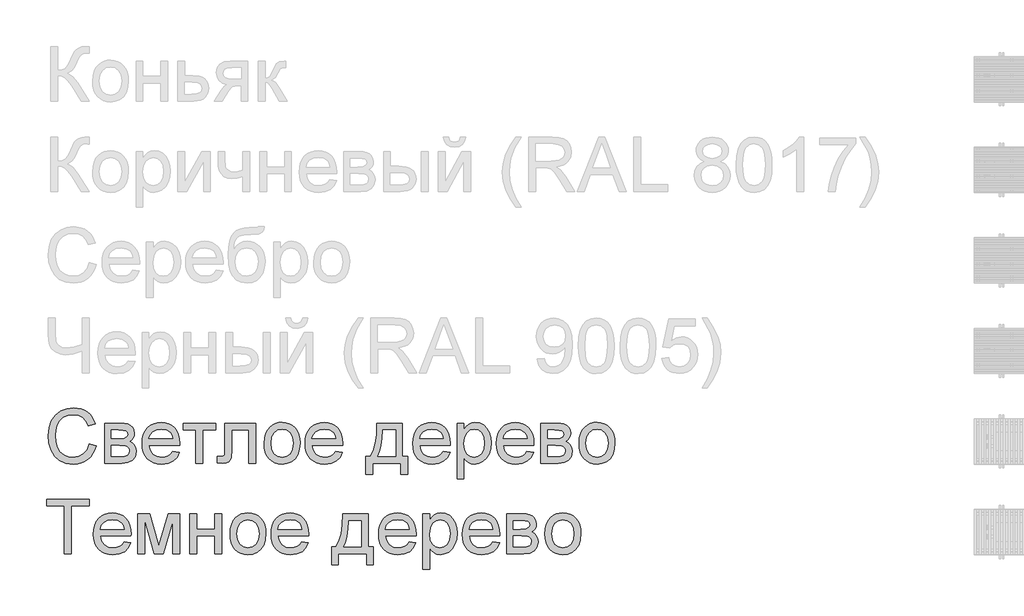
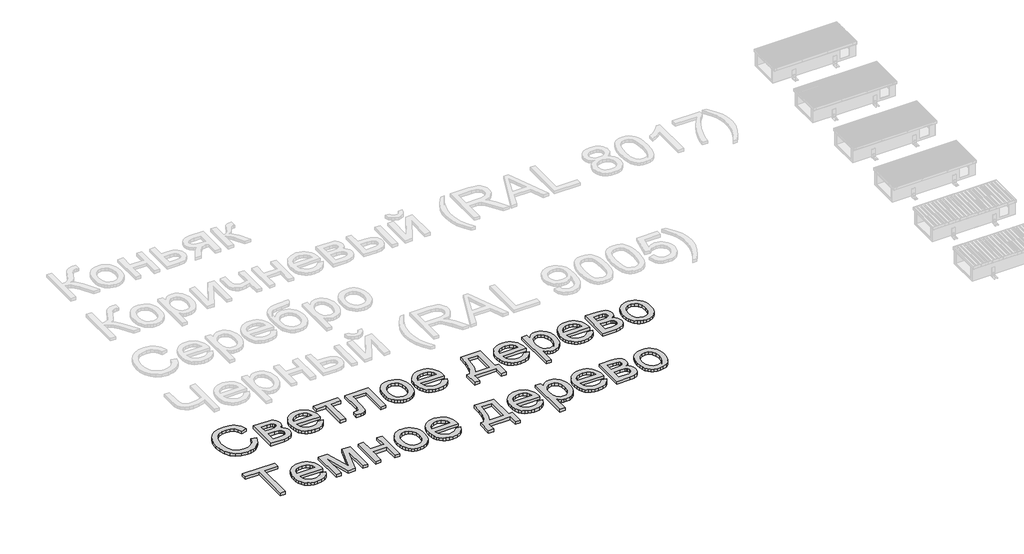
# One storey, part 2 of 12: 2 proxies.
"""IFC4 building model written with IfcOpenShell, lengths in millimetres."""

import ifcopenshell
import ifcopenshell.guid

model = None  # the IFC model being written
_history = None  # IfcOwnerHistory: only IFC2X3 demands one
_inside = {}  # id of a spatial element -> (the spatial element, [elements in it])
_under = {}  # id of a project, library or spatial element -> (it, [spatial elements below it])
_declared = {}  # id of a project -> (the project, [libraries it declares])
_typed = {}  # id of a type object -> (the type object, [elements of that type])
_made_of = {}  # id of a material, layer set ... -> (it, [elements and type objects made of it])


def new_model(schema):
    """Start an empty IFC model of exactly this schema.

    Asked for "IFC4X3", IfcOpenShell would pick the latest addendum, in which some entities
    have other attributes; the version numbers below select the first issue.
    IFC2X3 requires an IfcOwnerHistory on every rooted entity: one is made here for all.
    """
    global model, _history
    if schema == "IFC4X3":
        model = ifcopenshell.file(schema_version=(4, 3, 0, 0))
    else:
        model = ifcopenshell.file(schema=schema)
    _inside.clear()
    _under.clear()
    _declared.clear()
    _typed.clear()
    _made_of.clear()
    _history = None
    if model.schema == "IFC2X3":
        org = make("IfcOrganization", Name="unknown")
        user = make(
            "IfcPersonAndOrganization",
            ThePerson=make("IfcPerson", FamilyName="unknown"),
            TheOrganization=org,
        )
        app = make(
            "IfcApplication",
            ApplicationDeveloper=org,
            Version="unknown",
            ApplicationFullName="unknown",
            ApplicationIdentifier="unknown",
        )
        _history = make(
            "IfcOwnerHistory",
            OwningUser=user,
            OwningApplication=app,
            ChangeAction="ADDED",
            CreationDate=0,
        )
    return model


def make(cls, **values):
    """One entity of the class cls with the attributes given. An attribute that is None is left unset."""
    return model.create_entity(
        cls, **{name: value for name, value in values.items() if value is not None}
    )


def rooted(cls, **values):
    """An entity with a GlobalId (a new one), such as an element, a storey or a relation."""
    return make(cls, GlobalId=ifcopenshell.guid.new(), OwnerHistory=_history, **values)


def si_unit(unit_type, name, prefix=None):
    """IfcSIUnit, for example si_unit("LENGTHUNIT", "METRE", prefix="MILLI")."""
    return make("IfcSIUnit", UnitType=unit_type, Prefix=prefix, Name=name)


def assignment(units):
    """IfcUnitAssignment: the units of a project."""
    return None if units is None else make("IfcUnitAssignment", Units=units)


def point(xyz):
    """IfcCartesianPoint."""
    return None if xyz is None else make("IfcCartesianPoint", Coordinates=xyz)


def direction(xyz):
    """IfcDirection."""
    return None if xyz is None else make("IfcDirection", DirectionRatios=xyz)


def frame(location, z_axis=None, x_axis=None):
    """IfcAxis2Placement3D, a coordinate frame: its origin and axes. An axis left out is left unset."""
    return make(
        "IfcAxis2Placement3D",
        Location=point(location),
        Axis=direction(z_axis),
        RefDirection=direction(x_axis),
    )


def origin():
    """The frame at (0, 0, 0) with its axes left unset."""
    return frame((0.0, 0.0, 0.0))


def origin_with_axes():
    """The frame at (0, 0, 0) with the z axis (0, 0, 1) and the x axis (1, 0, 0) written out."""
    return frame((0.0, 0.0, 0.0), z_axis=(0.0, 0.0, 1.0), x_axis=(1.0, 0.0, 0.0))


def place(relative_to, where):
    """IfcLocalPlacement: puts the frame where relative to a parent placement (None: the world)."""
    return make(
        "IfcLocalPlacement", PlacementRelTo=relative_to, RelativePlacement=where
    )


def context(
    kind, dimensions, precision=None, world=None, true_north=None, identifier=None
):
    """IfcGeometricRepresentationContext, for example the 3D "Model" context."""
    return make(
        "IfcGeometricRepresentationContext",
        ContextIdentifier=identifier,
        ContextType=kind,
        CoordinateSpaceDimension=dimensions,
        Precision=precision,
        WorldCoordinateSystem=world,
        TrueNorth=true_north,
    )


def project(units=None, contexts=None):
    """IfcProject with its units and contexts."""
    return rooted(
        "IfcProject",
        Name="project",
        RepresentationContexts=contexts,
        UnitsInContext=assignment(units),
    )


def spatial(cls, under=None, at=None, **own):
    """A site, building, storey or space (cls), placed at a placement, below another one or the project."""
    s = rooted(cls, ObjectPlacement=at, **own)
    if under is not None:
        _under.setdefault(under.id(), (under, []))[1].append(s)
    return s


def polyline(points):
    """IfcPolyline through the points."""
    return make("IfcPolyline", Points=[point(p) for p in points])


def outline(outer, holes=None, kind="AREA"):
    """IfcArbitraryClosedProfileDef: a profile drawn as a closed curve; with holes, ...WithVoids."""
    if holes is None:
        return make("IfcArbitraryClosedProfileDef", ProfileType=kind, OuterCurve=outer)
    return make(
        "IfcArbitraryProfileDefWithVoids",
        ProfileType=kind,
        OuterCurve=outer,
        InnerCurves=holes,
    )


def extrude(swept, where, along, depth):
    """IfcExtrudedAreaSolid: the profile swept, set in the frame where, extruded along a direction by depth."""
    return make(
        "IfcExtrudedAreaSolid",
        SweptArea=swept,
        Position=where,
        ExtrudedDirection=direction(along),
        Depth=depth,
    )


def shape(context_of_items, identifier, shape_type, items):
    """IfcShapeRepresentation: the items that make up one representation, for example the "Body"."""
    return make(
        "IfcShapeRepresentation",
        ContextOfItems=context_of_items,
        RepresentationIdentifier=identifier,
        RepresentationType=shape_type,
        Items=items,
    )


def made_of(thing, what):
    """Note that an element or type object is made of a material, layer set ...; save() writes the relation."""
    if what is not None:
        _made_of.setdefault(what.id(), (what, []))[1].append(thing)
    return thing


def element(
    cls,
    number,
    at=None,
    inside=None,
    cuts=None,
    type_object=None,
    material=None,
    context=None,
    identifier="Body",
    shape_type=None,
    held_by="IfcProductDefinitionShape",
    body=None,
    shapes=None,
    **own,
):
    """One element of the class cls, such as IfcWall. Its Tag is "e" and its number.

    at: its placement. inside: the storey or other place that contains it. cuts: it is an
    opening in that element (IfcRelVoidsElement). A single representation is given by context,
    identifier, shape_type and body (its items); several are given by shapes. held_by: the class
    of the entity that holds the representations. save() writes the other relations.
    """
    e = rooted(cls, Tag="e%d" % number, ObjectPlacement=at, **own)
    if body is not None:
        shapes = [shape(context, identifier, shape_type, body)]
    if shapes is not None:
        e.Representation = make(held_by, Representations=shapes)
    if inside is not None:
        _inside.setdefault(inside.id(), (inside, []))[1].append(e)
    if cuts is not None:
        rooted(
            "IfcRelVoidsElement", RelatingBuildingElement=cuts, RelatedOpeningElement=e
        )
    if type_object is not None:
        _typed.setdefault(type_object.id(), (type_object, []))[1].append(e)
    return made_of(e, material)


def aggregate(whole, parts):
    """IfcRelAggregates: a whole, such as a stair, and the parts it consists of."""
    return rooted("IfcRelAggregates", RelatingObject=whole, RelatedObjects=parts)


def save(model, path):
    """Write the relations noted so far, then the file.

    IfcRelAggregates (storeys below a building ...), IfcRelContainedInSpatialStructure (elements
    in a storey), IfcRelDefinesByType, IfcRelAssociatesMaterial and IfcRelDeclares: one each for
    every whole, place, type object, material and project.
    """
    for whole, parts in _under.values():
        aggregate(whole, parts)
    for where, things in _inside.values():
        rooted(
            "IfcRelContainedInSpatialStructure",
            RelatedElements=things,
            RelatingStructure=where,
        )
    for kind, things in _typed.values():
        rooted("IfcRelDefinesByType", RelatedObjects=things, RelatingType=kind)
    for what, things in _made_of.values():
        rooted("IfcRelAssociatesMaterial", RelatedObjects=things, RelatingMaterial=what)
    for by, libraries in _declared.values():
        rooted("IfcRelDeclares", RelatingContext=by, RelatedDefinitions=libraries)
    model.write(path)


model = new_model("IFC4")

# Units and contexts
model_context = context("Model", 3, world=origin())
ifc_project = project(units=[si_unit("LENGTHUNIT", "METRE", prefix="MILLI")], contexts=[model_context])

# Site, building, storey
site = spatial("IfcSite", under=ifc_project)
building = spatial("IfcBuilding", under=site)
storey = spatial("IfcBuildingStorey", under=building, Name="Уровень 1", Elevation=0.0)

# Proxies
placement = place(None, origin())
element("IfcBuildingElementProxy", 1, Name="300", ObjectType="300", at=placement, inside=storey, context=model_context, shape_type="SweptSolid", body=[
    extrude(outline(polyline([(7314.0636537, -16307.9855094), (7351.73477, -16317.6975941), (7344.2805611, -16341.1247794), (7334.3523457, -16361.5951131), (7321.950124, -16379.1085954), (7307.0738958, -16393.6652261), (7290.0593535, -16405.1086554), (7271.2421895, -16413.2825335), (7250.6224036, -16418.1868603), (7228.199996, -16419.8216359), (7184.5048121, -16414.8736231), (7149.8043429, -16400.0295846), (7123.2064746, -16375.8045552), (7103.8190935, -16342.7135697), (7091.9824903, -16303.8100487), (7088.0369559, -16262.1474128), (7092.4975251, -16218.2039085), (7105.8792326, -16180.2568807), (7127.4831028, -16149.5111429), (7156.6101598, -16127.1715088), (7191.1542791, -16113.569072), (7229.0093364, -16109.0349264), (7270.3132874, -16114.9026442), (7288.2820236, -16122.2372915), (7304.4619336, -16132.5057977), (7318.586303, -16145.4368498), (7330.3884172, -16160.7591349), (7347.0258805, -16198.577404), (7309.3547642, -16207.5537247), (7296.2949533, -16180.0821367), (7278.4526766, -16161.2373815), (7255.6072047, -16150.3388774), (7227.5378084, -16146.7060427), (7195.182587, -16150.7343505), (7168.6031128, -16162.8192741), (7148.4339824, -16181.6916204), (7135.3097923, -16206.0821967), (7128.1085022, -16233.6549523), (7125.7080722, -16262.0738364), (7128.5499606, -16296.8754731), (7137.0756258, -16326.9682203), (7151.6069646, -16351.2024468), (7172.4658738, -16368.4285212), (7197.4726524, -16378.72002), (7224.4475997, -16382.1505196), (7255.8923132, -16377.4784183), (7282.0947083, -16363.4621143), (7301.8775626, -16340.2487604), (7314.0636537, -16307.9855094)])), origin_with_axes(), (0.0, 0.0, 1.0), 20.0),
    extrude(outline(polyline([(7398.8236654, -16193.7949381), (7481.8178435, -16193.7949381), (7508.4984852, -16195.0549339), (7527.3248463, -16198.8349214), (7541.1756034, -16205.9718321), (7552.9294332, -16217.3025976), (7560.9584577, -16232.0638626), (7563.6347992, -16249.4922722), (7562.0161185, -16263.5361673), (7557.1600761, -16275.648682), (7549.0482781, -16285.8849985), (7537.6623304, -16294.3002992), (7551.605058, -16302.1269886), (7562.9726116, -16314.7177499), (7570.5325867, -16331.0793016), (7573.0525783, -16350.2183624), (7566.6698257, -16378.9315522), (7551.4946934, -16399.1466678), (7527.4719991, -16411.1212267), (7494.5465605, -16415.1127464), (7398.8236654, -16415.1127464), (7398.8236654, -16193.7949381)]), holes=[polyline([(7436.4947817, -16278.5549498), (7473.7244396, -16278.5549498), (7504.4425862, -16276.6419634), (7519.3785952, -16268.9900179), (7524.317411, -16262.6624476), (7525.9636829, -16255.1576549), (7523.0758093, -16243.9188599), (7514.4121883, -16236.6899787), (7498.7588094, -16232.7720355), (7474.901662, -16231.4660544), (7436.4947817, -16231.4660544), (7436.4947817, -16278.5549498)]), polyline([(7436.4947817, -16377.4416301), (7482.7007603, -16377.4416301), (7507.8822829, -16375.7401758), (7523.6828146, -16370.6358132), (7532.1624946, -16361.3559898), (7535.381462, -16347.1281537), (7533.7719783, -16337.7011775), (7528.9435271, -16328.9915713), (7521.5307049, -16322.1765573), (7512.1681081, -16318.433358), (7479.0219403, -16316.2260661), (7436.4947817, -16316.2260661), (7436.4947817, -16377.4416301)])]), origin_with_axes(), (0.0, 0.0, 1.0), 20.0),
    extrude(outline(polyline([(7775.0933701, -16349.1882928), (7812.0287224, -16353.8971824), (7798.7205912, -16381.7274553), (7777.484603, -16402.5311821), (7748.7990045, -16415.4990225), (7713.1420421, -16419.8216359), (7689.7677398, -16417.9569341), (7668.9410204, -16412.3628285), (7650.6618837, -16403.0393192), (7634.9303299, -16389.9864061), (7622.2797878, -16373.5673728), (7613.2436863, -16354.1455027), (7607.8220254, -16331.7207959), (7606.0148051, -16306.2932522), (7607.8404195, -16280.0034851), (7613.3172627, -16256.831518), (7622.4453347, -16236.7773507), (7635.2246355, -16219.8409833), (7650.9148026, -16206.3856994), (7668.7754735, -16196.7747822), (7688.8066481, -16191.008232), (7711.0083265, -16189.0860485), (7732.4949343, -16191.0036334), (7751.9260014, -16196.7563881), (7769.3015279, -16206.3443126), (7784.6215137, -16219.7674069), (7797.1272023, -16236.6669861), (7806.059837, -16256.6843652), (7811.4194178, -16279.8195441), (7813.2059448, -16306.072523), (7812.9852156, -16316.2260661), (7643.6859214, -16316.2260661), (7650.2066298, -16344.424221), (7665.3541709, -16365.1543714), (7687.2155585, -16377.9014826), (7713.8778061, -16382.1505196), (7733.9273748, -16380.1823509), (7750.8131584, -16374.2778449), (7764.5351568, -16364.0691195), (7775.0933701, -16349.1882928)]), holes=[polyline([(7643.6859214, -16278.5549498), (7775.5348285, -16278.5549498), (7770.4396628, -16258.6525338), (7760.4516667, -16244.4155006), (7738.4891115, -16231.1717488), (7710.8611737, -16226.7571648), (7685.468119, -16230.279635), (7664.4712541, -16240.8470453), (7649.875536, -16257.3189616), (7643.6859214, -16278.5549498)])]), origin_with_axes(), (0.0, 0.0, 1.0), 20.0),
    extrude(outline(polyline([(7832.0415029, -16193.7949381), (8010.9793054, -16193.7949381), (8010.9793054, -16231.4660544), (7940.3459623, -16231.4660544), (7940.3459623, -16415.1127464), (7902.674846, -16415.1127464), (7902.674846, -16231.4660544), (7832.0415029, -16231.4660544), (7832.0415029, -16193.7949381)])), origin_with_axes(), (0.0, 0.0, 1.0), 20.0),
    extrude(outline(polyline([(8062.7770903, -16193.7949381), (8232.2971137, -16193.7949381), (8232.2971137, -16414.8920172), (8194.6259974, -16414.8920172), (8194.6259974, -16231.4660544), (8100.4482066, -16231.4660544), (8100.4482066, -16337.048187), (8097.9098208, -16385.7557632), (8093.154946, -16396.783026), (8083.9670932, -16406.3203667), (8070.0243656, -16412.9146515), (8051.0048665, -16415.1127464), (8020.3970845, -16413.19976), (8020.3970845, -16377.4416301), (8037.2460798, -16377.4416301), (8054.2790162, -16375.1239735), (8061.0848331, -16367.7663336), (8062.7770903, -16334.9144714), (8062.7770903, -16193.7949381)])), origin_with_axes(), (0.0, 0.0, 1.0), 20.0),
    extrude(outline(polyline([(8279.3860091, -16304.4538422), (8281.4231556, -16275.7912363), (8287.5345952, -16251.0925588), (8297.720328, -16230.3578099), (8311.9803538, -16213.5869894), (8326.3369487, -16202.8678278), (8342.1834656, -16195.2112838), (8359.5199047, -16190.6173573), (8378.3462658, -16189.0860485), (8399.1292992, -16190.9507504), (8417.9211714, -16196.544856), (8434.7218823, -16205.8683653), (8449.5314318, -16218.9212784), (8461.6186546, -16235.2621367), (8470.2523852, -16254.449482), (8475.4326235, -16276.4833143), (8477.1593697, -16301.3636335), (8474.1059491, -16339.4210259), (8464.9456874, -16368.391733), (8449.9452991, -16390.0875737), (8429.3714985, -16406.3203667), (8404.934937, -16416.4463186), (8378.3462658, -16419.8216359), (8357.2597296, -16417.9638318), (8338.2931135, -16412.3904196), (8321.4464174, -16403.1013992), (8306.7196413, -16390.0967707), (8294.7611772, -16373.5972632), (8286.2194171, -16353.823606), (8281.0943611, -16330.775799), (8279.3860091, -16304.4538422)]), holes=[polyline([(8317.0571254, -16304.3802658), (8321.416527, -16338.4737297), (8334.4947319, -16362.7631385), (8354.1764187, -16377.3036743), (8378.3462658, -16382.1505196), (8402.4057482, -16377.2760832), (8422.0506468, -16362.6527739), (8435.1288517, -16338.0414684), (8439.4882534, -16303.2030434), (8435.1012606, -16270.1028609), (8421.9402822, -16246.144546), (8402.2677925, -16231.6040101), (8378.3462658, -16226.7571648), (8354.1764187, -16231.585616), (8334.4947319, -16246.0709696), (8321.416527, -16270.305196), (8317.0571254, -16304.3802658)])]), origin_with_axes(), (0.0, 0.0, 1.0), 20.0),
    extrude(outline(polyline([(8674.4912719, -16349.1882928), (8711.4266242, -16353.8971824), (8698.118493, -16381.7274553), (8676.8825048, -16402.5311821), (8648.1969063, -16415.4990225), (8612.5399439, -16419.8216359), (8589.1656416, -16417.9569341), (8568.3389222, -16412.3628285), (8550.0597855, -16403.0393192), (8534.3282317, -16389.9864061), (8521.6776896, -16373.5673728), (8512.6415881, -16354.1455027), (8507.2199272, -16331.7207959), (8505.4127069, -16306.2932522), (8507.2383213, -16280.0034851), (8512.7151645, -16256.831518), (8521.8432365, -16236.7773507), (8534.6225373, -16219.8409833), (8550.3127044, -16206.3856994), (8568.1733753, -16196.7747822), (8588.2045499, -16191.008232), (8610.4062283, -16189.0860485), (8631.8928361, -16191.0036334), (8651.3239032, -16196.7563881), (8668.6994297, -16206.3443126), (8684.0194156, -16219.7674069), (8696.5251041, -16236.6669861), (8705.4577388, -16256.6843652), (8710.8173196, -16279.8195441), (8712.6038466, -16306.072523), (8712.3831174, -16316.2260661), (8543.0838232, -16316.2260661), (8549.6045316, -16344.424221), (8564.7520727, -16365.1543714), (8586.6134603, -16377.9014826), (8613.2757079, -16382.1505196), (8633.3252766, -16380.1823509), (8650.2110602, -16374.2778449), (8663.9330586, -16364.0691195), (8674.4912719, -16349.1882928)]), holes=[polyline([(8543.0838232, -16278.5549498), (8674.9327303, -16278.5549498), (8669.8375646, -16258.6525338), (8659.8495685, -16244.4155006), (8637.8870134, -16231.1717488), (8610.2590755, -16226.7571648), (8584.8660208, -16230.279635), (8563.8691559, -16240.8470453), (8549.2734378, -16257.3189616), (8543.0838232, -16278.5549498)])]), origin_with_axes(), (0.0, 0.0, 1.0), 20.0),
    extrude(outline(polyline([(8900.9594281, -16193.7949381), (9042.2261143, -16193.7949381), (9042.2261143, -16377.4416301), (9070.4794515, -16377.4416301), (9070.4794515, -16476.3283104), (9032.8083352, -16476.3283104), (9032.8083352, -16415.1127464), (8877.4149804, -16415.1127464), (8877.4149804, -16476.3283104), (8839.7438641, -16476.3283104), (8839.7438641, -16377.4416301), (8863.2883118, -16377.4416301), (8880.4040216, -16346.5119513), (8892.3877776, -16305.5942764), (8899.2395798, -16254.6886053), (8900.9594281, -16193.7949381)]), holes=[polyline([(8933.9216549, -16231.4660544), (8930.8314461, -16277.5892595), (8925.092487, -16317.2929239), (8916.7047775, -16350.5770474), (8905.6683176, -16377.4416301), (9004.5549979, -16377.4416301), (9004.5549979, -16231.4660544), (8933.9216549, -16231.4660544)])]), origin_with_axes(), (0.0, 0.0, 1.0), 20.0),
    extrude(outline(polyline([(9267.8113537, -16349.1882928), (9304.746706, -16353.8971824), (9291.4385748, -16381.7274553), (9270.2025867, -16402.5311821), (9241.5169881, -16415.4990225), (9205.8600257, -16419.8216359), (9182.4857234, -16417.9569341), (9161.659004, -16412.3628285), (9143.3798674, -16403.0393192), (9127.6483135, -16389.9864061), (9114.9977714, -16373.5673728), (9105.9616699, -16354.1455027), (9100.540009, -16331.7207959), (9098.7327887, -16306.2932522), (9100.5584031, -16280.0034851), (9106.0352463, -16256.831518), (9115.1633183, -16236.7773507), (9127.9426191, -16219.8409833), (9143.6327862, -16206.3856994), (9161.4934571, -16196.7747822), (9181.5246317, -16191.008232), (9203.7263101, -16189.0860485), (9225.2129179, -16191.0036334), (9244.6439851, -16196.7563881), (9262.0195115, -16206.3443126), (9277.3394974, -16219.7674069), (9289.8451859, -16236.6669861), (9298.7778206, -16256.6843652), (9304.1374015, -16279.8195441), (9305.9239284, -16306.072523), (9305.7031992, -16316.2260661), (9136.403905, -16316.2260661), (9142.9246134, -16344.424221), (9158.0721545, -16365.1543714), (9179.9335421, -16377.9014826), (9206.5957897, -16382.1505196), (9226.6453584, -16380.1823509), (9243.531142, -16374.2778449), (9257.2531404, -16364.0691195), (9267.8113537, -16349.1882928)]), holes=[polyline([(9136.403905, -16278.5549498), (9268.2528121, -16278.5549498), (9263.1576465, -16258.6525338), (9253.1696503, -16244.4155006), (9231.2070952, -16231.1717488), (9203.5791573, -16226.7571648), (9178.1861026, -16230.279635), (9157.1892377, -16240.8470453), (9142.5935196, -16257.3189616), (9136.403905, -16278.5549498)])]), origin_with_axes(), (0.0, 0.0, 1.0), 20.0),
    extrude(outline(polyline([(9343.5950447, -16499.8727581), (9343.5950447, -16193.7949381), (9381.266161, -16193.7949381), (9381.266161, -16230.7302904), (9393.5534196, -16212.5109346), (9407.3122063, -16199.497109), (9423.3518613, -16191.6888137), (9442.481725, -16189.0860485), (9467.9575532, -16192.7280803), (9490.232808, -16203.6541756), (9508.3693903, -16221.2021467), (9521.4292012, -16244.7098062), (9529.32027, -16272.4665028), (9531.9506262, -16302.7615851), (9528.9799791, -16334.9788508), (9520.0680378, -16363.7932081), (9505.4999108, -16387.7423259), (9485.5607066, -16405.3638735), (9462.3381557, -16416.2071953), (9437.9199883, -16419.8216359), (9420.6019433, -16417.4028118), (9405.1417025, -16410.1463394), (9391.9071477, -16399.192653), (9381.266161, -16385.6821868), (9381.266161, -16499.8727581), (9343.5950447, -16499.8727581)]), holes=[polyline([(9381.266161, -16306.2196758), (9385.3404541, -16339.991243), (9397.5633334, -16363.6092671), (9415.5987482, -16377.5152065), (9437.1106479, -16382.1505196), (9458.9720354, -16377.3496596), (9477.4673027, -16362.9470795), (9490.0764581, -16338.4645327), (9494.2795099, -16303.4237726), (9490.1776257, -16269.8361465), (9477.8719729, -16245.8870286), (9459.8641493, -16231.5396308), (9438.6557523, -16226.7571648), (9417.3645818, -16231.8431334), (9398.6669794, -16247.1010392), (9385.6163656, -16272.0526355), (9381.266161, -16306.2196758)])]), origin_with_axes(), (0.0, 0.0, 1.0), 20.0),
    extrude(outline(polyline([(9729.2825284, -16349.1882928), (9766.2178808, -16353.8971824), (9752.9097496, -16381.7274553), (9731.6737614, -16402.5311821), (9702.9881628, -16415.4990225), (9667.3312005, -16419.8216359), (9643.9568982, -16417.9569341), (9623.1301787, -16412.3628285), (9604.8510421, -16403.0393192), (9589.1194883, -16389.9864061), (9576.4689462, -16373.5673728), (9567.4328447, -16354.1455027), (9562.0111838, -16331.7207959), (9560.2039635, -16306.2932522), (9562.0295779, -16280.0034851), (9567.5064211, -16256.831518), (9576.6344931, -16236.7773507), (9589.4137939, -16219.8409833), (9605.103961, -16206.3856994), (9622.9646318, -16196.7747822), (9642.9958065, -16191.008232), (9665.1974849, -16189.0860485), (9686.6840927, -16191.0036334), (9706.1151598, -16196.7563881), (9723.4906863, -16206.3443126), (9738.8106721, -16219.7674069), (9751.3163607, -16236.6669861), (9760.2489954, -16256.6843652), (9765.6085762, -16279.8195441), (9767.3951031, -16306.072523), (9767.174374, -16316.2260661), (9597.8750798, -16316.2260661), (9604.3957881, -16344.424221), (9619.5433293, -16365.1543714), (9641.4047168, -16377.9014826), (9668.0669644, -16382.1505196), (9688.1165332, -16380.1823509), (9705.0023168, -16374.2778449), (9718.7243152, -16364.0691195), (9729.2825284, -16349.1882928)]), holes=[polyline([(9597.8750798, -16278.5549498), (9729.7239868, -16278.5549498), (9724.6288212, -16258.6525338), (9714.640825, -16244.4155006), (9692.6782699, -16231.1717488), (9665.0503321, -16226.7571648), (9639.6572774, -16230.279635), (9618.6604125, -16240.8470453), (9604.0646943, -16257.3189616), (9597.8750798, -16278.5549498)])]), origin_with_axes(), (0.0, 0.0, 1.0), 20.0),
    extrude(outline(polyline([(9805.0662195, -16193.7949381), (9888.0603976, -16193.7949381), (9914.7410393, -16195.0549339), (9933.5674004, -16198.8349214), (9947.4181575, -16205.9718321), (9959.1719872, -16217.3025976), (9967.2010118, -16232.0638626), (9969.8773533, -16249.4922722), (9968.2586725, -16263.5361673), (9963.4026302, -16275.648682), (9955.2908322, -16285.8849985), (9943.9048844, -16294.3002992), (9957.8476121, -16302.1269886), (9969.2151657, -16314.7177499), (9976.7751407, -16331.0793016), (9979.2951324, -16350.2183624), (9972.9123798, -16378.9315522), (9957.7372475, -16399.1466678), (9933.7145532, -16411.1212267), (9900.7891146, -16415.1127464), (9805.0662195, -16415.1127464), (9805.0662195, -16193.7949381)]), holes=[polyline([(9842.7373358, -16278.5549498), (9879.9669937, -16278.5549498), (9910.6851403, -16276.6419634), (9925.6211493, -16268.9900179), (9930.5599651, -16262.6624476), (9932.206237, -16255.1576549), (9929.3183633, -16243.9188599), (9920.6547423, -16236.6899787), (9905.0013634, -16232.7720355), (9881.1442161, -16231.4660544), (9842.7373358, -16231.4660544), (9842.7373358, -16278.5549498)]), polyline([(9842.7373358, -16377.4416301), (9888.9433144, -16377.4416301), (9914.1248369, -16375.7401758), (9929.9253686, -16370.6358132), (9938.4050486, -16361.3559898), (9941.6240161, -16347.1281537), (9940.0145323, -16337.7011775), (9935.1860811, -16328.9915713), (9927.7732589, -16322.1765573), (9918.4106622, -16318.433358), (9885.2644944, -16316.2260661), (9842.7373358, -16316.2260661), (9842.7373358, -16377.4416301)])]), origin_with_axes(), (0.0, 0.0, 1.0), 20.0),
    extrude(outline(polyline([(10016.9662487, -16304.4538422), (10019.0033952, -16275.7912363), (10025.1148349, -16251.0925588), (10035.3005676, -16230.3578099), (10049.5605934, -16213.5869894), (10063.9171883, -16202.8678278), (10079.7637053, -16195.2112838), (10097.1001443, -16190.6173573), (10115.9265054, -16189.0860485), (10136.7095388, -16190.9507504), (10155.501411, -16196.544856), (10172.3021219, -16205.8683653), (10187.1116714, -16218.9212784), (10199.1988942, -16235.2621367), (10207.8326248, -16254.449482), (10213.0128632, -16276.4833143), (10214.7396093, -16301.3636335), (10211.6861887, -16339.4210259), (10202.525927, -16368.391733), (10187.5255387, -16390.0875737), (10166.9517381, -16406.3203667), (10142.5151766, -16416.4463186), (10115.9265054, -16419.8216359), (10094.8399693, -16417.9638318), (10075.8733532, -16412.3904196), (10059.026657, -16403.1013992), (10044.2998809, -16390.0967707), (10032.3414168, -16373.5972632), (10023.7996567, -16353.823606), (10018.6746007, -16330.775799), (10016.9662487, -16304.4538422)]), holes=[polyline([(10054.637365, -16304.3802658), (10058.9967666, -16338.4737297), (10072.0749716, -16362.7631385), (10091.7566583, -16377.3036743), (10115.9265054, -16382.1505196), (10139.9859879, -16377.2760832), (10159.6308864, -16362.6527739), (10172.7090913, -16338.0414684), (10177.068493, -16303.2030434), (10172.6815002, -16270.1028609), (10159.5205218, -16246.144546), (10139.8480321, -16231.6040101), (10115.9265054, -16226.7571648), (10091.7566583, -16231.585616), (10072.0749716, -16246.0709696), (10058.9967666, -16270.305196), (10054.637365, -16304.3802658)])]), origin_with_axes(), (0.0, 0.0, 1.0), 20.0),
])
element("IfcBuildingElementProxy", 2, Name="300", ObjectType="300", at=placement, inside=storey, context=model_context, shape_type="SweptSolid", body=[
    extrude(outline(polyline([(7177.5058571, -16915.1127464), (7177.5058571, -16651.4149322), (7078.6191768, -16651.4149322), (7078.6191768, -16613.7438159), (7314.0636537, -16613.7438159), (7314.0636537, -16651.4149322), (7215.1769734, -16651.4149322), (7215.1769734, -16915.1127464), (7177.5058571, -16915.1127464)])), origin_with_axes(), (0.0, 0.0, 1.0), 20.0),
    extrude(outline(polyline([(7506.6866664, -16849.1882928), (7543.6220187, -16853.8971824), (7530.3138875, -16881.7274553), (7509.0778994, -16902.5311821), (7480.3923008, -16915.4990225), (7444.7353384, -16919.8216359), (7421.3610361, -16917.9569341), (7400.5343167, -16912.3628285), (7382.25518, -16903.0393192), (7366.5236262, -16889.9864061), (7353.8730841, -16873.5673728), (7344.8369826, -16854.1455027), (7339.4153217, -16831.7207959), (7337.6081014, -16806.2932522), (7339.4337158, -16780.0034851), (7344.910559, -16756.831518), (7354.038631, -16736.7773507), (7366.8179318, -16719.8409833), (7382.5080989, -16706.3856994), (7400.3687698, -16696.7747822), (7420.3999444, -16691.008232), (7442.6016228, -16689.0860485), (7464.0882306, -16691.0036334), (7483.5192977, -16696.7563881), (7500.8948242, -16706.3443126), (7516.2148101, -16719.7674069), (7528.7204986, -16736.6669861), (7537.6531333, -16756.6843652), (7543.0127141, -16779.8195441), (7544.7992411, -16806.072523), (7544.5785119, -16816.2260661), (7375.2792177, -16816.2260661), (7381.7999261, -16844.424221), (7396.9474672, -16865.1543714), (7418.8088548, -16877.9014826), (7445.4711024, -16882.1505196), (7465.5206711, -16880.1823509), (7482.4064547, -16874.2778449), (7496.1284531, -16864.0691195), (7506.6866664, -16849.1882928)]), holes=[polyline([(7375.2792177, -16778.5549498), (7507.1281248, -16778.5549498), (7502.0329591, -16758.6525338), (7492.044963, -16744.4155006), (7470.0824079, -16731.1717488), (7442.45447, -16726.7571648), (7417.0614153, -16730.279635), (7396.0645504, -16740.8470453), (7381.4688323, -16757.3189616), (7375.2792177, -16778.5549498)])]), origin_with_axes(), (0.0, 0.0, 1.0), 20.0),
    extrude(outline(polyline([(7582.4703574, -16693.7949381), (7647.2911649, -16693.7949381), (7697.2495399, -16870.966907), (7751.107464, -16693.7949381), (7813.2059448, -16693.7949381), (7813.2059448, -16915.1127464), (7775.5348285, -16915.1127464), (7775.5348285, -16736.9107079), (7721.3825988, -16915.1127464), (7671.9392586, -16915.1127464), (7620.1414737, -16728.3758456), (7620.1414737, -16915.1127464), (7582.4703574, -16915.1127464), (7582.4703574, -16693.7949381)])), origin_with_axes(), (0.0, 0.0, 1.0), 20.0),
    extrude(outline(polyline([(7869.7126192, -16693.7949381), (7907.3837355, -16693.7949381), (7907.3837355, -16778.5549498), (8006.2704158, -16778.5549498), (8006.2704158, -16693.7949381), (8043.9415321, -16693.7949381), (8043.9415321, -16915.1127464), (8006.2704158, -16915.1127464), (8006.2704158, -16816.2260661), (7907.3837355, -16816.2260661), (7907.3837355, -16915.1127464), (7869.7126192, -16915.1127464), (7869.7126192, -16693.7949381)])), origin_with_axes(), (0.0, 0.0, 1.0), 20.0),
    extrude(outline(polyline([(8091.0304275, -16804.4538422), (8093.0675741, -16775.7912363), (8099.1790137, -16751.0925588), (8109.3647465, -16730.3578099), (8123.6247723, -16713.5869894), (8137.9813672, -16702.8678278), (8153.8278841, -16695.2112838), (8171.1643231, -16690.6173573), (8189.9906842, -16689.0860485), (8210.7737177, -16690.9507504), (8229.5655899, -16696.544856), (8246.3663007, -16705.8683653), (8261.1758503, -16718.9212784), (8273.2630731, -16735.2621367), (8281.8968037, -16754.449482), (8287.077042, -16776.4833143), (8288.8037881, -16801.3636335), (8285.7503676, -16839.4210259), (8276.5901059, -16868.391733), (8261.5897175, -16890.0875737), (8241.015917, -16906.3203667), (8216.5793554, -16916.4463186), (8189.9906842, -16919.8216359), (8168.9041481, -16917.9638318), (8149.937532, -16912.3904196), (8133.0908359, -16903.1013992), (8118.3640598, -16890.0967707), (8106.4055957, -16873.5972632), (8097.8638356, -16853.823606), (8092.7387795, -16830.775799), (8091.0304275, -16804.4538422)]), holes=[polyline([(8128.7015438, -16804.3802658), (8133.0609455, -16838.4737297), (8146.1391504, -16862.7631385), (8165.8208371, -16877.3036743), (8189.9906842, -16882.1505196), (8214.0501667, -16877.2760832), (8233.6950653, -16862.6527739), (8246.7732702, -16838.0414684), (8251.1326718, -16803.2030434), (8246.745679, -16770.1028609), (8233.5847007, -16746.144546), (8213.912211, -16731.6040101), (8189.9906842, -16726.7571648), (8165.8208371, -16731.585616), (8146.1391504, -16746.0709696), (8133.0609455, -16770.305196), (8128.7015438, -16804.3802658)])]), origin_with_axes(), (0.0, 0.0, 1.0), 20.0),
    extrude(outline(polyline([(8486.1356903, -16849.1882928), (8523.0710427, -16853.8971824), (8509.7629115, -16881.7274553), (8488.5269233, -16902.5311821), (8459.8413247, -16915.4990225), (8424.1843624, -16919.8216359), (8400.8100601, -16917.9569341), (8379.9833406, -16912.3628285), (8361.704204, -16903.0393192), (8345.9726502, -16889.9864061), (8333.3221081, -16873.5673728), (8324.2860066, -16854.1455027), (8318.8643457, -16831.7207959), (8317.0571254, -16806.2932522), (8318.8827398, -16780.0034851), (8324.359583, -16756.831518), (8333.487655, -16736.7773507), (8346.2669558, -16719.8409833), (8361.9571229, -16706.3856994), (8379.8177937, -16696.7747822), (8399.8489684, -16691.008232), (8422.0506468, -16689.0860485), (8443.5372546, -16691.0036334), (8462.9683217, -16696.7563881), (8480.3438482, -16706.3443126), (8495.663834, -16719.7674069), (8508.1695226, -16736.6669861), (8517.1021573, -16756.6843652), (8522.4617381, -16779.8195441), (8524.248265, -16806.072523), (8524.0275358, -16816.2260661), (8354.7282417, -16816.2260661), (8361.24895, -16844.424221), (8376.3964912, -16865.1543714), (8398.2578787, -16877.9014826), (8424.9201263, -16882.1505196), (8444.9696951, -16880.1823509), (8461.8554787, -16874.2778449), (8475.5774771, -16864.0691195), (8486.1356903, -16849.1882928)]), holes=[polyline([(8354.7282417, -16778.5549498), (8486.5771487, -16778.5549498), (8481.4819831, -16758.6525338), (8471.4939869, -16744.4155006), (8449.5314318, -16731.1717488), (8421.903494, -16726.7571648), (8396.5104393, -16730.279635), (8375.5135744, -16740.8470453), (8360.9178562, -16757.3189616), (8354.7282417, -16778.5549498)])]), origin_with_axes(), (0.0, 0.0, 1.0), 20.0),
    extrude(outline(polyline([(8712.6038466, -16693.7949381), (8853.8705327, -16693.7949381), (8853.8705327, -16877.4416301), (8882.12387, -16877.4416301), (8882.12387, -16976.3283104), (8844.4527536, -16976.3283104), (8844.4527536, -16915.1127464), (8689.0593989, -16915.1127464), (8689.0593989, -16976.3283104), (8651.3882826, -16976.3283104), (8651.3882826, -16877.4416301), (8674.9327303, -16877.4416301), (8692.0484401, -16846.5119513), (8704.0321961, -16805.5942764), (8710.8839982, -16754.6886053), (8712.6038466, -16693.7949381)]), holes=[polyline([(8745.5660733, -16731.4660544), (8742.4758646, -16777.5892595), (8736.7369055, -16817.2929239), (8728.349196, -16850.5770474), (8717.3127361, -16877.4416301), (8816.1994164, -16877.4416301), (8816.1994164, -16731.4660544), (8745.5660733, -16731.4660544)])]), origin_with_axes(), (0.0, 0.0, 1.0), 20.0),
    extrude(outline(polyline([(9079.4557722, -16849.1882928), (9116.3911245, -16853.8971824), (9103.0829933, -16881.7274553), (9081.8470051, -16902.5311821), (9053.1614066, -16915.4990225), (9017.5044442, -16919.8216359), (8994.1301419, -16917.9569341), (8973.3034225, -16912.3628285), (8955.0242858, -16903.0393192), (8939.292732, -16889.9864061), (8926.6421899, -16873.5673728), (8917.6060884, -16854.1455027), (8912.1844275, -16831.7207959), (8910.3772072, -16806.2932522), (8912.2028216, -16780.0034851), (8917.6796648, -16756.831518), (8926.8077368, -16736.7773507), (8939.5870376, -16719.8409833), (8955.2772047, -16706.3856994), (8973.1378756, -16696.7747822), (8993.1690502, -16691.008232), (9015.3707286, -16689.0860485), (9036.8573364, -16691.0036334), (9056.2884035, -16696.7563881), (9073.66393, -16706.3443126), (9088.9839158, -16719.7674069), (9101.4896044, -16736.6669861), (9110.4222391, -16756.6843652), (9115.7818199, -16779.8195441), (9117.5683469, -16806.072523), (9117.3476177, -16816.2260661), (8948.0483235, -16816.2260661), (8954.5690319, -16844.424221), (8969.716573, -16865.1543714), (8991.5779606, -16877.9014826), (9018.2402082, -16882.1505196), (9038.2897769, -16880.1823509), (9055.1755605, -16874.2778449), (9068.8975589, -16864.0691195), (9079.4557722, -16849.1882928)]), holes=[polyline([(8948.0483235, -16778.5549498), (9079.8972306, -16778.5549498), (9074.8020649, -16758.6525338), (9064.8140688, -16744.4155006), (9042.8515136, -16731.1717488), (9015.2235758, -16726.7571648), (8989.8305211, -16730.279635), (8968.8336562, -16740.8470453), (8954.2379381, -16757.3189616), (8948.0483235, -16778.5549498)])]), origin_with_axes(), (0.0, 0.0, 1.0), 20.0),
    extrude(outline(polyline([(9155.2394632, -16999.8727581), (9155.2394632, -16693.7949381), (9192.9105795, -16693.7949381), (9192.9105795, -16730.7302904), (9205.1978381, -16712.5109346), (9218.9566247, -16699.497109), (9234.9962797, -16691.6888137), (9254.1261435, -16689.0860485), (9279.6019716, -16692.7280803), (9301.8772265, -16703.6541756), (9320.0138088, -16721.2021467), (9333.0736196, -16744.7098062), (9340.9646884, -16772.4665028), (9343.5950447, -16802.7615851), (9340.6243976, -16834.9788508), (9331.7124563, -16863.7932081), (9317.1443293, -16887.7423259), (9297.2051251, -16905.3638735), (9273.9825742, -16916.2071953), (9249.5644067, -16919.8216359), (9232.2463618, -16917.4028118), (9216.786121, -16910.1463394), (9203.5515662, -16899.192653), (9192.9105795, -16885.6821868), (9192.9105795, -16999.8727581), (9155.2394632, -16999.8727581)]), holes=[polyline([(9192.9105795, -16806.2196758), (9196.9848726, -16839.991243), (9209.2077519, -16863.6092671), (9227.2431667, -16877.5152065), (9248.7550663, -16882.1505196), (9270.6164539, -16877.3496596), (9289.1117212, -16862.9470795), (9301.7208766, -16838.4645327), (9305.9239284, -16803.4237726), (9301.8220442, -16769.8361465), (9289.5163914, -16745.8870286), (9271.5085677, -16731.5396308), (9250.3001707, -16726.7571648), (9229.0090003, -16731.8431334), (9210.3113979, -16747.1010392), (9197.2607841, -16772.0526355), (9192.9105795, -16806.2196758)])]), origin_with_axes(), (0.0, 0.0, 1.0), 20.0),
    extrude(outline(polyline([(9540.9269469, -16849.1882928), (9577.8622992, -16853.8971824), (9564.5541681, -16881.7274553), (9543.3181799, -16902.5311821), (9514.6325813, -16915.4990225), (9478.9756189, -16919.8216359), (9455.6013167, -16917.9569341), (9434.7745972, -16912.3628285), (9416.4954606, -16903.0393192), (9400.7639068, -16889.9864061), (9388.1133646, -16873.5673728), (9379.0772631, -16854.1455027), (9373.6556022, -16831.7207959), (9371.8483819, -16806.2932522), (9373.6739963, -16780.0034851), (9379.1508395, -16756.831518), (9388.2789115, -16736.7773507), (9401.0582124, -16719.8409833), (9416.7483794, -16706.3856994), (9434.6090503, -16696.7747822), (9454.6402249, -16691.008232), (9476.8419034, -16689.0860485), (9498.3285111, -16691.0036334), (9517.7595783, -16696.7563881), (9535.1351048, -16706.3443126), (9550.4550906, -16719.7674069), (9562.9607792, -16736.6669861), (9571.8934139, -16756.6843652), (9577.2529947, -16779.8195441), (9579.0395216, -16806.072523), (9578.8187924, -16816.2260661), (9409.5194982, -16816.2260661), (9416.0402066, -16844.424221), (9431.1877478, -16865.1543714), (9453.0491353, -16877.9014826), (9479.7113829, -16882.1505196), (9499.7609517, -16880.1823509), (9516.6467352, -16874.2778449), (9530.3687337, -16864.0691195), (9540.9269469, -16849.1882928)]), holes=[polyline([(9409.5194982, -16778.5549498), (9541.3684053, -16778.5549498), (9536.2732397, -16758.6525338), (9526.2852435, -16744.4155006), (9504.3226884, -16731.1717488), (9476.6947506, -16726.7571648), (9451.3016958, -16730.279635), (9430.304831, -16740.8470453), (9415.7091128, -16757.3189616), (9409.5194982, -16778.5549498)])]), origin_with_axes(), (0.0, 0.0, 1.0), 20.0),
    extrude(outline(polyline([(9616.7106379, -16693.7949381), (9699.704816, -16693.7949381), (9726.3854577, -16695.0549339), (9745.2118188, -16698.8349214), (9759.062576, -16705.9718321), (9770.8164057, -16717.3025976), (9778.8454302, -16732.0638626), (9781.5217718, -16749.4922722), (9779.903091, -16763.5361673), (9775.0470486, -16775.648682), (9766.9352507, -16785.8849985), (9755.5493029, -16794.3002992), (9769.4920305, -16802.1269886), (9780.8595842, -16814.7177499), (9788.4195592, -16831.0793016), (9790.9395508, -16850.2183624), (9784.5567982, -16878.9315522), (9769.3816659, -16899.1466678), (9745.3589716, -16911.1212267), (9712.4335331, -16915.1127464), (9616.7106379, -16915.1127464), (9616.7106379, -16693.7949381)]), holes=[polyline([(9654.3817542, -16877.4416301), (9700.5877328, -16877.4416301), (9725.7692554, -16875.7401758), (9741.5697871, -16870.6358132), (9750.0494671, -16861.3559898), (9753.2684345, -16847.1281537), (9751.6589508, -16837.7011775), (9746.8304996, -16828.9915713), (9739.4176774, -16822.1765573), (9730.0550806, -16818.433358), (9696.9089129, -16816.2260661), (9654.3817542, -16816.2260661), (9654.3817542, -16877.4416301)]), polyline([(9654.3817542, -16778.5549498), (9691.6114121, -16778.5549498), (9722.3295587, -16776.6419634), (9737.2655677, -16768.9900179), (9742.2043835, -16762.6624476), (9743.8506555, -16755.1576549), (9740.9627818, -16743.9188599), (9732.2991608, -16736.6899787), (9716.6457819, -16732.7720355), (9692.7886345, -16731.4660544), (9654.3817542, -16731.4660544), (9654.3817542, -16778.5549498)])]), origin_with_axes(), (0.0, 0.0, 1.0), 20.0),
    extrude(outline(polyline([(9828.6106671, -16804.4538422), (9830.6478137, -16775.7912363), (9836.7592533, -16751.0925588), (9846.9449861, -16730.3578099), (9861.2050119, -16713.5869894), (9875.5616068, -16702.8678278), (9891.4081237, -16695.2112838), (9908.7445627, -16690.6173573), (9927.5709238, -16689.0860485), (9948.3539573, -16690.9507504), (9967.1458295, -16696.544856), (9983.9465403, -16705.8683653), (9998.7560899, -16718.9212784), (10010.8433127, -16735.2621367), (10019.4770433, -16754.449482), (10024.6572816, -16776.4833143), (10026.3840278, -16801.3636335), (10023.3306072, -16839.4210259), (10014.1703455, -16868.391733), (9999.1699572, -16890.0875737), (9978.5961566, -16906.3203667), (9954.159595, -16916.4463186), (9927.5709238, -16919.8216359), (9906.4843877, -16917.9638318), (9887.5177716, -16912.3904196), (9870.6710755, -16903.1013992), (9855.9442994, -16890.0967707), (9843.9858353, -16873.5972632), (9835.4440752, -16853.823606), (9830.3190192, -16830.775799), (9828.6106671, -16804.4538422)]), holes=[polyline([(9866.2817835, -16804.3802658), (9870.6411851, -16838.4737297), (9883.71939, -16862.7631385), (9903.4010768, -16877.3036743), (9927.5709238, -16882.1505196), (9951.6304063, -16877.2760832), (9971.2753049, -16862.6527739), (9984.3535098, -16838.0414684), (9988.7129114, -16803.2030434), (9984.3259187, -16770.1028609), (9971.1649403, -16746.144546), (9951.4924506, -16731.6040101), (9927.5709238, -16726.7571648), (9903.4010768, -16731.585616), (9883.71939, -16746.0709696), (9870.6411851, -16770.305196), (9866.2817835, -16804.3802658)])]), origin_with_axes(), (0.0, 0.0, 1.0), 20.0),
])

save(model, "model.ifc")
